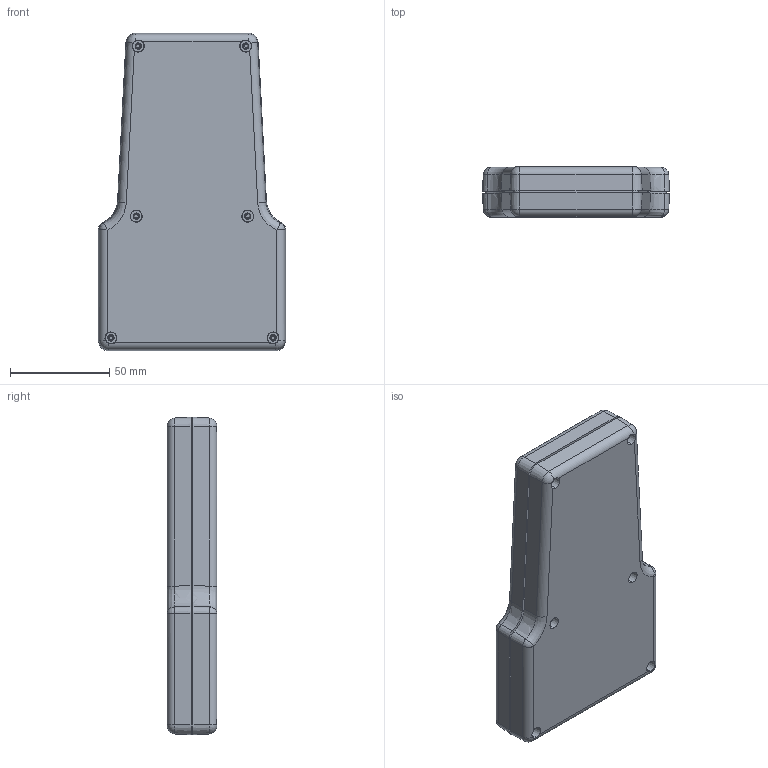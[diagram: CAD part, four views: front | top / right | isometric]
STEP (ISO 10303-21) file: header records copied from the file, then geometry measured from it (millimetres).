
FILE_DESCRIPTION (( 'STEP AP203' ), '1' );
FILE_NAME ('HH-097.STEP', '2020-01-03T13:59:01', ( '' ), ( '' ), 'SwSTEP 2.0', 'SolidWorks 2020', '' );
FILE_SCHEMA (( 'CONFIG_CONTROL_DESIGN' ));
Length unit declared in the file: millimetre
Products named in the file (4): taban; pcb; HH-097; ust_kapak
Assembly tree (3 placements, depth 2):
  HH-097
    ust_kapak
    taban
    pcb
Bounding box: 94.1 x 25 x 159.7 mm (x, y, z)
Volume: 113472.2 mm3; surface area: 97838.6 mm2
Topology: 3 solids, 3 shells, 391 faces, 932 edges, 608 vertices
Faces by surface type: cone 168, plane 143, cylinder 50, bspline 22, torus 8
Entity records: 14767 total; most frequent: CARTESIAN_POINT 5058, DIRECTION 2026, ORIENTED_EDGE 1856, EDGE_CURVE 928, AXIS2_PLACEMENT_3D 807, VERTEX_POINT 608, EDGE_LOOP 488, CIRCLE 432
